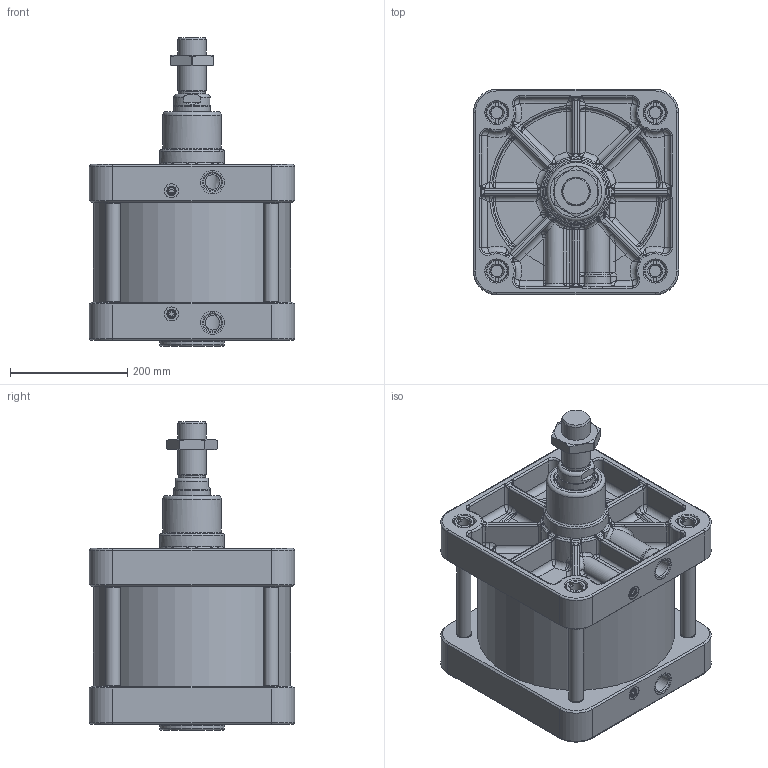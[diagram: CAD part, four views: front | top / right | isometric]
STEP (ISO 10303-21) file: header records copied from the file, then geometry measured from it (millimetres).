
FILE_DESCRIPTION(/* description */ (''),/* implementation_level */ '2;1');
FILE_NAME(/* name */ 'T:\Archivio Inventor\- 00 NUOVI STP PER SITO CON STELO CHE SI MUOVE\SERIE H - U\SERIE UDM\UDM320.---.GS.M\UDM320.080.GS.M.stp',/* time_stamp */ '2020-04-29T16:28:18+02:00',/* author */ ('carlo.corazza'),/* organization */ (''),/* preprocessor_version */ 'ST-DEVELOPER v16.5',/* originating_system */ 'Autodesk Inventor 2017',/* authorisation */ '');
FILE_SCHEMA (('AUTOMOTIVE_DESIGN { 1 0 10303 214 3 1 1 }'));
Length unit declared in the file: millimetre
Products named in the file (7): UDM320.080.GS.M; TP; STELO-080; TA; CORPO-080; TIRANTE-080; 29.2048.000.0
Assembly tree (9 placements, depth 2):
  UDM320.080.GS.M
    TP
    STELO-080
    TA
    TIRANTE-080  x4
    CORPO-080
    29.2048.000.0
Bounding box: 350 x 350 x 526 mm (x, y, z)
Volume: 12103917.5 mm3; surface area: 1673562 mm2
Topology: 9 solids, 16 shells, 1710 faces, 3937 edges, 2221 vertices
Faces by surface type: cylinder 439, bspline 432, plane 380, torus 252, cone 115, sphere 92
Full cylindrical faces by diameter (mm): 8 x2, 9 x1, 10 x1, 11 x2, 11.2 x2, 12 x2, 12.376 x1, 13.4 x4, 14 x2, 15.8 x4, 16 x6, 20.752 x8, 24 x10, 24.5 x8, 25 x6, 30.291 x2, 36 x9, 37 x8, 40 x2, 44.8 x1, 45.835 x1, 48 x1, 62 x1, 63 x1, 64 x1, 64.293 x1, 65.8 x1, 73 x1, 75 x3, 100 x1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
Entity records: 64917 total; most frequent: CARTESIAN_POINT 27888, DIRECTION 7314, ORIENTED_EDGE 7088, EDGE_CURVE 3544, AXIS2_PLACEMENT_3D 3113, VERTEX_POINT 2134, EDGE_LOOP 1966, FACE_OUTER_BOUND 1683
